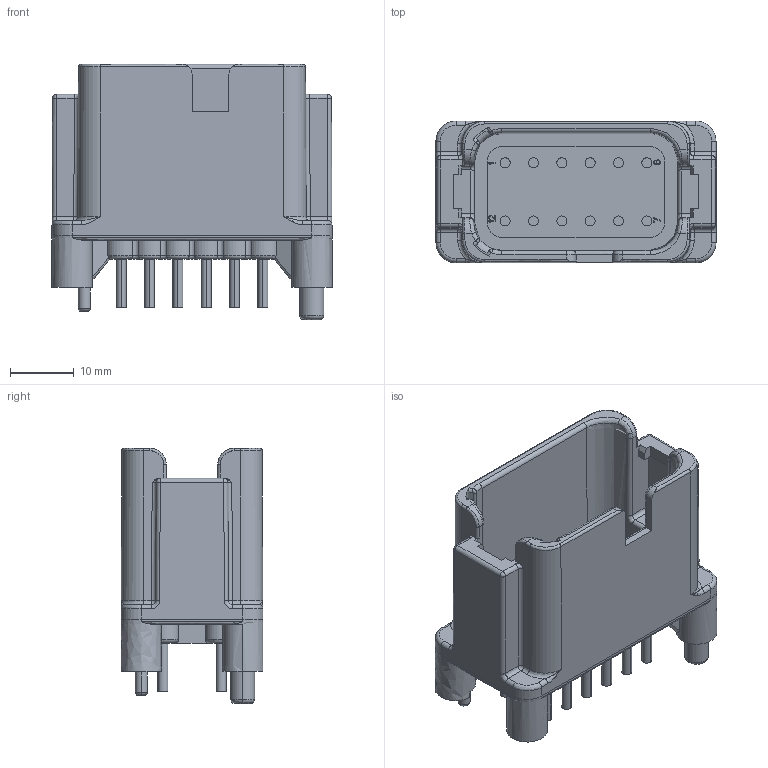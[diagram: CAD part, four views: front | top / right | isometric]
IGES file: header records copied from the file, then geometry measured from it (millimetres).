
Start section:  PTC IGES file: c-dtf15-12pb-99-3d.igs
Global section: file name: c-dtf15-12pb-99-3d.igs; native system: Pro/ENGINEER by Parametric Technology Corporation; preprocessor: 2011490; author: workeradm; organization: Unknown; units: millimetre
Bounding box: 43.94 x 22.25 x 40.06 mm (x, y, z)
Surface area: 9532.6 mm2 (no closed solid volume)
Topology: 0 solids, 0 shells, 509 faces, 2560 edges, 2560 vertices
Faces by surface type: bspline 273, revolution 236
